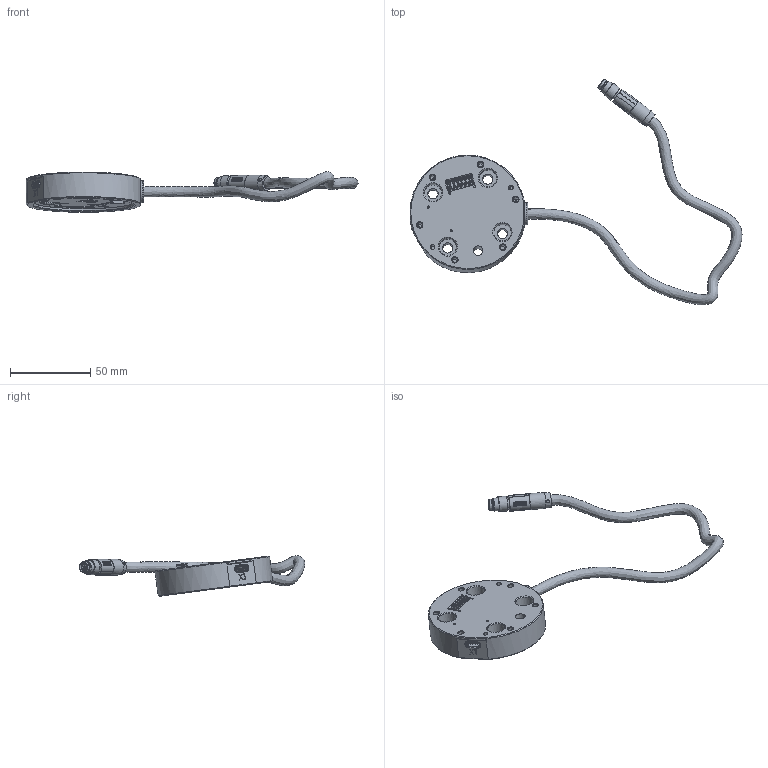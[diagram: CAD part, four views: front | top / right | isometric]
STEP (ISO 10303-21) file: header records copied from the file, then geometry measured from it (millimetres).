
FILE_DESCRIPTION (( 'STEP AP214' ), '1' );
FILE_NAME ('PixONE T25 3D File.STEP', '2025-08-08T13:16:07', ( '' ), ( '' ), 'SwSTEP 2.0', 'SolidWorks 2022', '' );
FILE_SCHEMA (( 'AUTOMOTIVE_DESIGN' ));
Length unit declared in the file: millimetre
Products named in the file (1): PixONE T25 3D File
Bounding box: 206.98 x 140.71 x 25.31 mm (x, y, z)
Surface area: 26175.3 mm2 (no closed solid volume)
Topology: 0 solids, 52 shells, 528 faces, 3957 edges, 3441 vertices
Faces by surface type: plane 246, cylinder 150, cone 75, sphere 25, bspline 19, torus 13
Full cylindrical faces by diameter (mm): 0.6 x8, 1.25 x1, 3 x2, 3.3 x6, 3.5 x3, 5 x1, 5.5 x2, 5.9 x1, 6 x1, 6.35 x2, 6.4 x4, 8 x1, 9.3 x1, 10 x1, 11 x4, 14 x1
Entity records: 45231 total; most frequent: CARTESIAN_POINT 11723, DIRECTION 5239, ORIENTED_EDGE 4681, EDGE_CURVE 3831, VERTEX_POINT 3417, LINE 2921, VECTOR 2921, AXIS2_PLACEMENT_3D 1159
